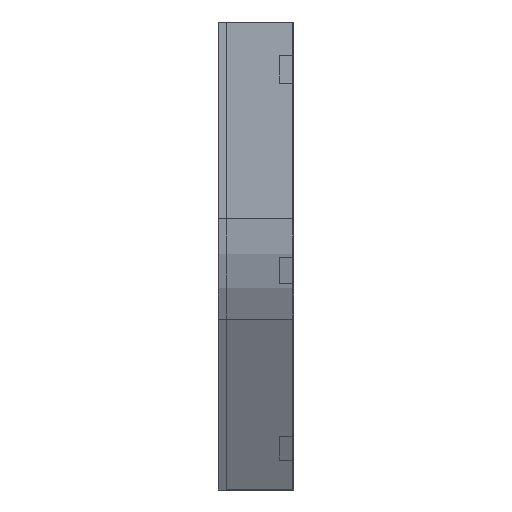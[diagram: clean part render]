
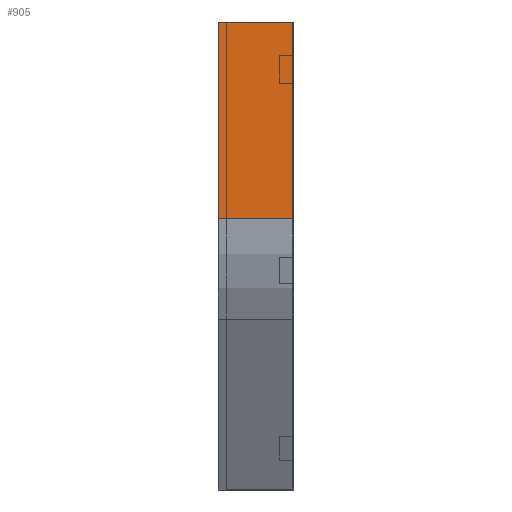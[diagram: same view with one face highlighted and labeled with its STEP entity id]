
A CAD part, left-side view. The second image highlights one B-rep face of the part: STEP entity #905.
In plain terms, the highlighted planar face has unit normal (-1, 0, 0).
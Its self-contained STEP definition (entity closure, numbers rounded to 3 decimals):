
#35 = CARTESIAN_POINT ( 'NONE',  ( 0., 0., 0. ) ) ;
#83 = DIRECTION ( 'NONE',  ( 0., -1., 0. ) ) ;
#101 = VERTEX_POINT ( 'NONE', #1528 ) ;
#118 = EDGE_CURVE ( 'NONE', #101, #1133, #1383, .T. ) ;
#122 = VERTEX_POINT ( 'NONE', #675 ) ;
#129 = CARTESIAN_POINT ( 'NONE',  ( 0., 0., 0. ) ) ;
#158 = PLANE ( 'NONE',  #1127 ) ;
#204 = CARTESIAN_POINT ( 'NONE',  ( 0., 0., 0. ) ) ;
#285 = VECTOR ( 'NONE', #390, 1000. ) ;
#375 = CARTESIAN_POINT ( 'NONE',  ( 0., 112.5, -291.154 ) ) ;
#377 = EDGE_LOOP ( 'NONE', ( #1855, #482, #971, #433 ) ) ;
#390 = DIRECTION ( 'NONE',  ( 0., -1., 0. ) ) ;
#433 = ORIENTED_EDGE ( 'NONE', *, *, #1445, .T. ) ;
#470 = DIRECTION ( 'NONE',  ( 0., 0., -1. ) ) ;
#482 = ORIENTED_EDGE ( 'NONE', *, *, #118, .F. ) ;
#556 = VECTOR ( 'NONE', #83, 1000. ) ;
#618 = VECTOR ( 'NONE', #1113, 1000. ) ;
#675 = CARTESIAN_POINT ( 'NONE',  ( 0., 0., -291.154 ) ) ;
#770 = DIRECTION ( 'NONE',  ( 0., 0., -1. ) ) ;
#905 = ADVANCED_FACE ( 'NONE', ( #1343 ), #158, .F. ) ;
#971 = ORIENTED_EDGE ( 'NONE', *, *, #1213, .T. ) ;
#1081 = LINE ( 'NONE', #1349, #556 ) ;
#1085 = VERTEX_POINT ( 'NONE', #375 ) ;
#1098 = CARTESIAN_POINT ( 'NONE',  ( 0., 0., 0. ) ) ;
#1104 = LINE ( 'NONE', #1255, #618 ) ;
#1113 = DIRECTION ( 'NONE',  ( 0., 0., -1. ) ) ;
#1127 = AXIS2_PLACEMENT_3D ( 'NONE', #35, #1471, #470 ) ;
#1133 = VERTEX_POINT ( 'NONE', #129 ) ;
#1213 = EDGE_CURVE ( 'NONE', #101, #1085, #1104, .T. ) ;
#1255 = CARTESIAN_POINT ( 'NONE',  ( 0., 112.5, 0. ) ) ;
#1343 = FACE_OUTER_BOUND ( 'NONE', #377, .T. ) ;
#1349 = CARTESIAN_POINT ( 'NONE',  ( 0., 0., -291.154 ) ) ;
#1372 = VECTOR ( 'NONE', #770, 1000. ) ;
#1383 = LINE ( 'NONE', #1098, #285 ) ;
#1442 = EDGE_CURVE ( 'NONE', #1133, #122, #1789, .T. ) ;
#1445 = EDGE_CURVE ( 'NONE', #1085, #122, #1081, .T. ) ;
#1471 = DIRECTION ( 'NONE',  ( 1., 0., 0. ) ) ;
#1528 = CARTESIAN_POINT ( 'NONE',  ( 0., 112.5, 0. ) ) ;
#1789 = LINE ( 'NONE', #204, #1372 ) ;
#1855 = ORIENTED_EDGE ( 'NONE', *, *, #1442, .F. ) ;
